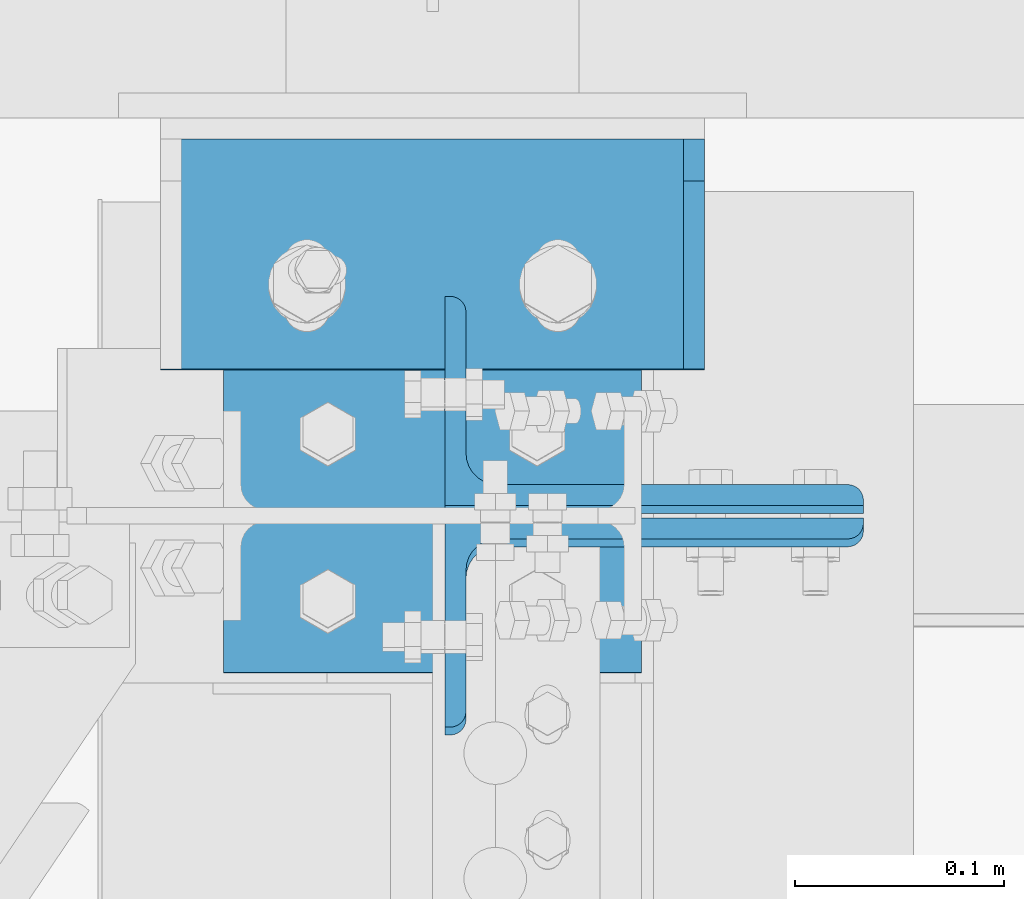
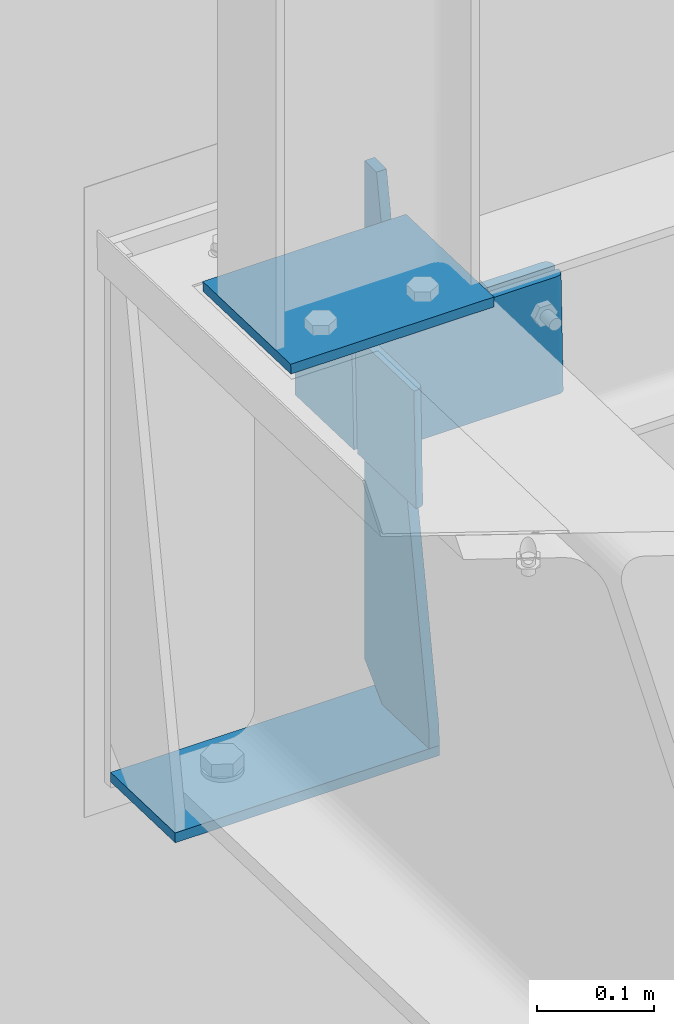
# One storey, part 94 of 362: 3 beams, 2 members, 4 elements without a shape of their own.
"""IFC2X3 building model written with IfcOpenShell, lengths in millimetres."""

from ifc_helpers import new_model, si_unit, frame, origin_with_axes, origin_2d_with_axis, place, context, subcontext, project, spatial, polyline, rectangle, l_section, outline, extrude, material, type_object, element, aggregate, save


model = new_model("IFC2X3")

# Units and contexts
model_context = context("Model", 3, precision=1e-05, world=origin_with_axes())
body_context = subcontext(model_context, "Body", "Model", "MODEL_VIEW")
ifc_project = project(units=[si_unit("LENGTHUNIT", "METRE", prefix="MILLI"), si_unit("AREAUNIT", "SQUARE_METRE"), si_unit("VOLUMEUNIT", "CUBIC_METRE"), si_unit("MASSUNIT", "GRAM", prefix="KILO"), si_unit("TIMEUNIT", "SECOND"), si_unit("PLANEANGLEUNIT", "RADIAN"), si_unit("SOLIDANGLEUNIT", "STERADIAN"), si_unit("THERMODYNAMICTEMPERATUREUNIT", "DEGREE_CELSIUS"), si_unit("LUMINOUSINTENSITYUNIT", "LUMEN")], contexts=[model_context])

# Site, building, storey
site_placement = place(None, origin_with_axes())
site = spatial("IfcSite", under=ifc_project, at=site_placement, Name="Undefined", CompositionType="ELEMENT")
building_placement = place(site_placement, origin_with_axes())
building = spatial("IfcBuilding", under=site, at=building_placement, Name="Undefined", CompositionType="ELEMENT")
storey_placement = place(building_placement, origin_with_axes())
storey = spatial("IfcBuildingStorey", under=building, at=storey_placement, Name="Undefined", CompositionType="ELEMENT", Elevation=0.0)

# Assembly, beam
assembly_1_placement = place(storey_placement, origin_with_axes())
assembly_1 = element("IfcElementAssembly", 1, at=assembly_1_placement, inside=storey, Name="TRAVERSE SHED", AssemblyPlace="NOTDEFINED", PredefinedType="NOTDEFINED")
ifc_material = material(Name="Undefined/S235-E24")
beam_type_1 = type_object("IfcBeamType", Name="PL10*200", PredefinedType="NOTDEFINED")
beam_1_placement = place(assembly_1_placement, frame((28880.0, 15274.8056218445, 7574.97237948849), z_axis=(-1.0, 0.0, 0.0), x_axis=(0.0, -0.999506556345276, 0.031410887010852)))
beam_1 = element("IfcBeam", 2, at=beam_1_placement, type_object=beam_type_1, material=ifc_material, Name="PLATINE", ObjectType="PL10*200", context=body_context, shape_type="SweptSolid", body=[
    extrude(rectangle(XDim=10.0, YDim=200.0, at=origin_2d_with_axis()), frame((150.0, 0.0, 0.0), z_axis=(-1.0, 0.0, 0.0), x_axis=(0.0, -1.0, 0.0)), (0.0, 0.0, 1.0), 150.0),
])
aggregate(assembly_1, [beam_1])

# Assembly, member
assembly_2_placement = place(storey_placement, origin_with_axes())
assembly_2 = element("IfcElementAssembly", 3, at=assembly_2_placement, inside=storey, AssemblyPlace="NOTDEFINED", PredefinedType="NOTDEFINED")
member_type = type_object("IfcMemberType", Name="L200*100*10", PredefinedType="NOTDEFINED")
member_1_placement = place(assembly_2_placement, frame((28986.0000000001, 15251.0896210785, 7410.63663406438), z_axis=(1.0, 0.0, 0.0), x_axis=(7.58071938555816e-11, 0.0314107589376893, 0.999506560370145)))
member_1 = element("IfcMember", 4, at=member_1_placement, type_object=member_type, material=ifc_material, Name="ATTACHE", ObjectType="L200*100*10", context=body_context, shape_type="SweptSolid", body=[
    extrude(l_section(Depth=200.0, Width=100.0, Thickness=10.0, FilletRadius=15.0, EdgeRadius=7.5, at=origin_2d_with_axis()), frame((120.0, 0.0, 0.0), z_axis=(-1.0, 0.0, 0.0), x_axis=(0.0, -1.0, 0.0)), (0.0, 0.0, 1.0), 120.0),
])
aggregate(assembly_2, [member_1])

assembly_3_placement = place(storey_placement, origin_with_axes())
assembly_3 = element("IfcElementAssembly", 5, at=assembly_3_placement, inside=storey, AssemblyPlace="NOTDEFINED", PredefinedType="NOTDEFINED")
member_2_placement = place(assembly_3_placement, frame((28986.0000000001, 15148.9104115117, 7533.90703577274), z_axis=(1.0, 0.0, 0.0), x_axis=(-1.05403257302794e-09, -0.0314112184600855, -0.999506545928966)))
member_2 = element("IfcMember", 6, at=member_2_placement, type_object=member_type, material=ifc_material, Name="ATTACHE", ObjectType="L200*100*10", context=body_context, shape_type="SweptSolid", body=[
    extrude(l_section(Depth=200.0, Width=100.0, Thickness=10.0, FilletRadius=15.0, EdgeRadius=7.5, at=origin_2d_with_axis()), frame((120.0, 0.0, 0.0), z_axis=(-1.0, 0.0, 0.0), x_axis=(0.0, -1.0, 0.0)), (0.0, 0.0, 1.0), 120.0),
])
aggregate(assembly_3, [member_2])

# Assembly, beams
assembly_4_placement = place(storey_placement, origin_with_axes())
assembly_4 = element("IfcElementAssembly", 7, at=assembly_4_placement, inside=storey, AssemblyPlace="NOTDEFINED", PredefinedType="NOTDEFINED")
beam_type_2 = type_object("IfcBeamType", Name="PL10*110", PredefinedType="NOTDEFINED")
beam_2_placement = place(assembly_4_placement, frame((29004.9999999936, 15270.042093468, 7019.84807001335), z_axis=(-1.0, 0.0, 0.0), x_axis=(7.58071938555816e-11, 0.0314107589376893, 0.999506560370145)))
beam_2 = element("IfcBeam", 8, at=beam_2_placement, type_object=beam_type_2, material=ifc_material, Name="RAIDISSEUR", ObjectType="PL10*110", context=body_context, shape_type="SweptSolid", body=[
    extrude(outline(polyline([(0.0, 0.0), (19.9999999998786, -3.63797880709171e-12), (547.705993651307, 72.789970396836), (548.334167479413, 92.780097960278), (29.9851968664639, 109.069869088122), (3.83439057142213e-08, 80.0121917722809), (0.0, 0.0)])), frame((0.0, 0.0, -5.0), z_axis=(0.0, 0.0, 1.0), x_axis=(1.0, 0.0, 0.0)), (0.0, 0.0, 1.0), 10.0),
])
beam_type_3 = type_object("IfcBeamType", Name="PL10*260", PredefinedType="NOTDEFINED")
beam_3_placement = place(assembly_4_placement, frame((28879.9999999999, 15379.8429462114, 7011.39497068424), z_axis=(-1.0, 0.0, 0.0), x_axis=(0.0, -0.999506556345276, 0.031410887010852)))
beam_3 = element("IfcBeam", 9, at=beam_3_placement, type_object=beam_type_3, material=ifc_material, Name="SABOT", ObjectType="PL10*260", context=body_context, shape_type="SweptSolid", body=[
    extrude(rectangle(XDim=10.0, YDim=260.0, at=origin_2d_with_axis()), frame((110.012190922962, 0.0, 0.0), z_axis=(-1.0, 0.0, 0.0), x_axis=(0.0, -1.0, 0.0)), (0.0, 0.0, 1.0), 110.01),
])
aggregate(assembly_4, [beam_2, beam_3])

save(model, "model.ifc")
